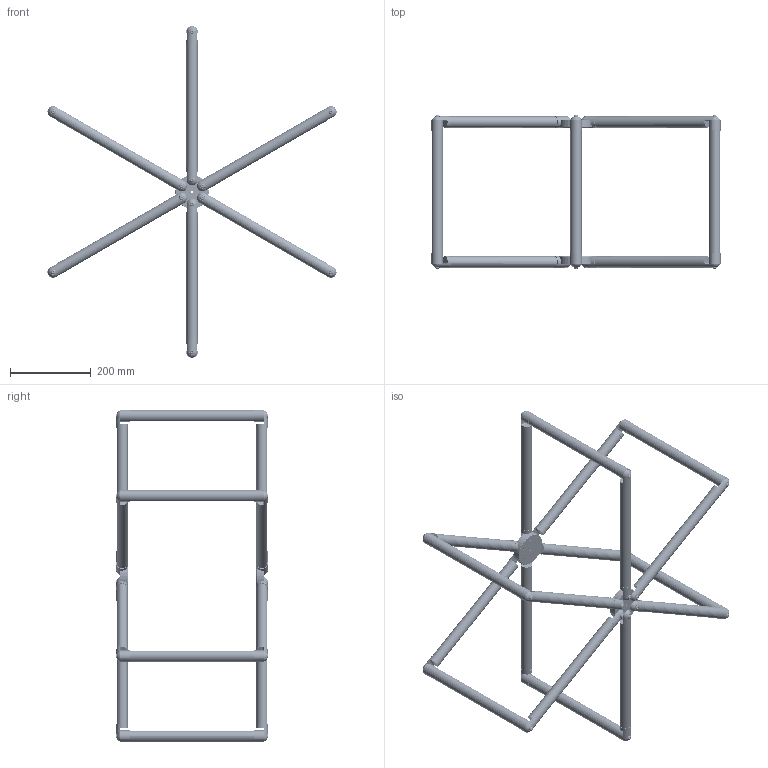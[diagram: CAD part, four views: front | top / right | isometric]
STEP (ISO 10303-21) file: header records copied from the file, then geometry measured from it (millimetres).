
FILE_DESCRIPTION (( 'STEP AP203' ), '1' );
FILE_NAME ('Wheel Assembly.STEP', '2013-06-28T14:57:05', ( 'Allred & Associates' ), ( 'Allred & Associates' ), 'SwSTEP 2.0', 'SolidWorks 2013', '' );
FILE_SCHEMA (( 'CONFIG_CONTROL_DESIGN' ));
Length unit declared in the file: inch
Products named in the file (6): DRP-002-0513-00; 91255A542_91255A542; Wheel Assembly; DRP-002-0533-00; DRP-002-0511-00; 12 Inch Tube
Assembly tree (80 placements, depth 2):
  Wheel Assembly
    DRP-002-0533-00  x2
    DRP-002-0511-00  x24
    12 Inch Tube  x18
    DRP-002-0513-00  x12
    91255A542_91255A542  x24
Bounding box: 715.11 x 378.41 x 821.33 mm (x, y, z)
Volume: 1472106.8 mm3; surface area: 1370288.8 mm2
Topology: 80 solids, 80 shells, 5492 faces, 11416 edges, 6144 vertices
Faces by surface type: cylinder 2408, cone 2360, plane 580, torus 72, sphere 72
Entity records: 12289 total; most frequent: CARTESIAN_POINT 3894, DIRECTION 1327, ORIENTED_EDGE 1088, AXIS2_PLACEMENT_3D 548, EDGE_CURVE 544, VERTEX_POINT 301, EDGE_LOOP 283, FACE_OUTER_BOUND 258
